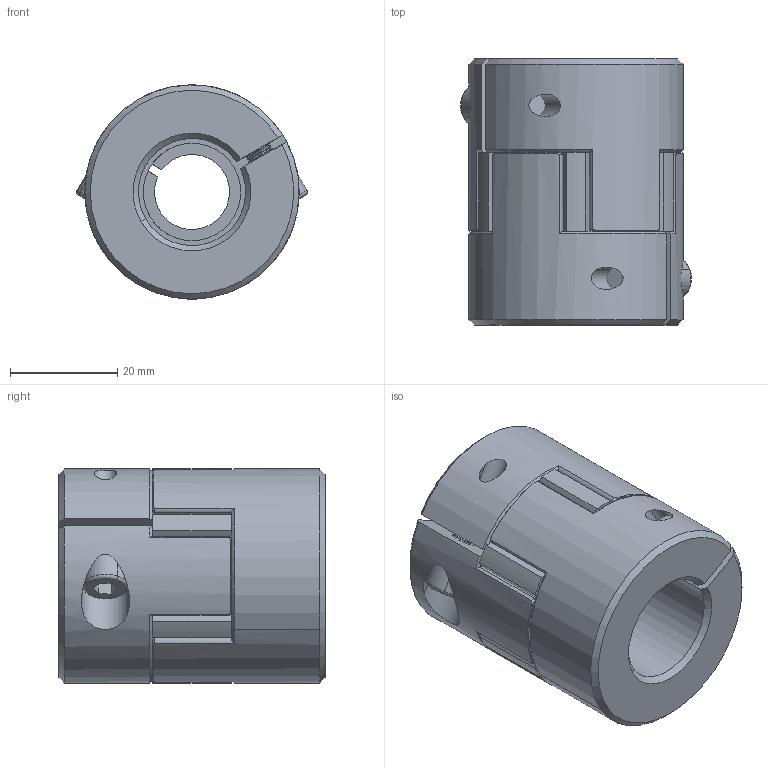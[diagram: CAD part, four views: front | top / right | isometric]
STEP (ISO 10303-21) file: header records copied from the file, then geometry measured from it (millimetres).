
FILE_DESCRIPTION (( 'STEP AP203' ), '1' );
FILE_NAME ('LF-B-D40L50-14-20.STEP', '2021-10-25T03:07:18', ( '' ), ( '' ), 'SwSTEP 2.0', 'SolidWorks 2018', '' );
FILE_SCHEMA (( 'CONFIG_CONTROL_DESIGN' ));
Length unit declared in the file: millimetre
Products named in the file (1): LF-B-D40L50-14-20
Bounding box: 43.11 x 49.7 x 40 mm (x, y, z)
Volume: 48809.9 mm3; surface area: 14659.1 mm2
Topology: 1 solids, 7 shells, 470 faces, 1113 edges, 660 vertices
Faces by surface type: cone 170, cylinder 169, plane 127, torus 4
Entity records: 13932 total; most frequent: CARTESIAN_POINT 2888, DIRECTION 2501, ORIENTED_EDGE 2218, EDGE_CURVE 1109, AXIS2_PLACEMENT_3D 1037, VERTEX_POINT 660, CIRCLE 566, EDGE_LOOP 487
